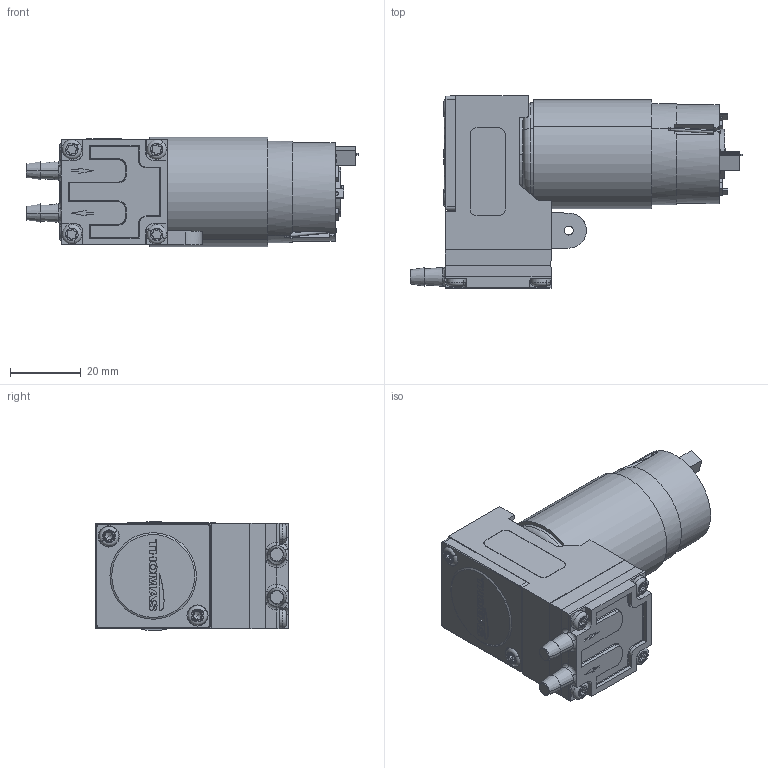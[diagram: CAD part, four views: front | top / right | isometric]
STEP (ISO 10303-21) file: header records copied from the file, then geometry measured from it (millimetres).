
FILE_DESCRIPTION (( 'STEP AP214' ), '1' );
FILE_NAME ('14100126-18.STEP', '2019-08-28T09:20:35', ( '' ), ( '' ), 'SwSTEP 2.0', 'SolidWorks 2018', '' );
FILE_SCHEMA (( 'AUTOMOTIVE_DESIGN' ));
Length unit declared in the file: millimetre
Products named in the file (1): 14100126-18
Bounding box: 94.05 x 54.4 x 31 mm (x, y, z)
Volume: 80172.7 mm3; surface area: 15701.7 mm2
Topology: 1 solids, 1 shells, 1136 faces, 3221 edges, 2128 vertices
Faces by surface type: plane 789, cylinder 174, cone 65, bspline 53, torus 47, sphere 8
Entity records: 38839 total; most frequent: CARTESIAN_POINT 9613, ORIENTED_EDGE 6426, DIRECTION 5582, EDGE_CURVE 3213, LINE 2478, VECTOR 2478, VERTEX_POINT 2128, AXIS2_PLACEMENT_3D 1552
